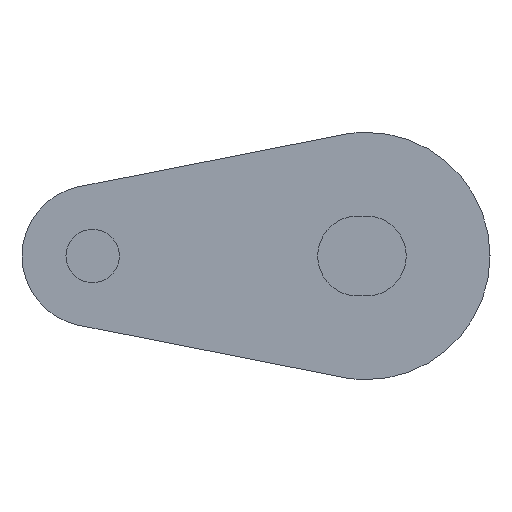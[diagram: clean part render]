
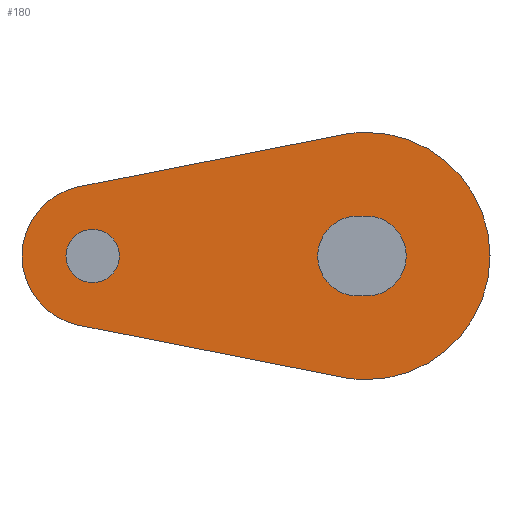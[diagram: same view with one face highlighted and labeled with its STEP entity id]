
A CAD part, left-side view. The second image highlights one B-rep face of the part: STEP entity #180.
In plain terms, the highlighted planar face has unit normal (-1, 0, 0).
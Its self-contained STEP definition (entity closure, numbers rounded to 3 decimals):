
#5 = EDGE_CURVE ( 'NONE', #591, #689, #377, .T. ) ;
#7 = EDGE_CURVE ( 'NONE', #605, #591, #329, .T. ) ;
#8 = AXIS2_PLACEMENT_3D ( 'NONE', #574, #535, #534 ) ;
#14 = AXIS2_PLACEMENT_3D ( 'NONE', #533, #532, #531 ) ;
#19 = AXIS2_PLACEMENT_3D ( 'NONE', #896, #889, #890 ) ;
#25 = AXIS2_PLACEMENT_3D ( 'NONE', #743, #737, #738 ) ;
#29 = EDGE_CURVE ( 'NONE', #571, #577, #318, .T. ) ;
#41 = EDGE_CURVE ( 'NONE', #650, #609, #302, .T. ) ;
#43 = EDGE_CURVE ( 'NONE', #688, #614, #300, .T. ) ;
#62 = EDGE_CURVE ( 'NONE', #689, #610, #285, .T. ) ;
#96 = EDGE_CURVE ( 'NONE', #610, #650, #272, .T. ) ;
#100 = AXIS2_PLACEMENT_3D ( 'NONE', #788, #798, #797 ) ;
#101 = AXIS2_PLACEMENT_3D ( 'NONE', #670, #669, #668 ) ;
#107 = EDGE_CURVE ( 'NONE', #617, #583, #243, .T. ) ;
#120 = AXIS2_PLACEMENT_3D ( 'NONE', #645, #644, #682 ) ;
#127 = EDGE_CURVE ( 'NONE', #614, #688, #208, .T. ) ;
#133 = EDGE_CURVE ( 'NONE', #609, #605, #206, .T. ) ;
#152 = EDGE_CURVE ( 'NONE', #577, #617, #1062, .T. ) ;
#154 = EDGE_CURVE ( 'NONE', #583, #571, #521, .T. ) ;
#155 = AXIS2_PLACEMENT_3D ( 'NONE', #765, #780, #782 ) ;
#162 = AXIS2_PLACEMENT_3D ( 'NONE', #722, #706, #707 ) ;
#180 = ADVANCED_FACE ( 'NONE', ( #580, #618, #615 ), #880, .T. ) ;
#206 = CIRCLE ( 'NONE', #100, 7. ) ;
#208 = CIRCLE ( 'NONE', #155, 1.51 ) ;
#243 = CIRCLE ( 'NONE', #162, 2.26 ) ;
#249 = ORIENTED_EDGE ( 'NONE', *, *, #96, .F. ) ;
#262 = VECTOR ( 'NONE', #728, 1000. ) ;
#272 = LINE ( 'NONE', #733, #262 ) ;
#280 = ORIENTED_EDGE ( 'NONE', *, *, #133, .F. ) ;
#285 = CIRCLE ( 'NONE', #25, 4. ) ;
#288 = ORIENTED_EDGE ( 'NONE', *, *, #7, .F. ) ;
#290 = ORIENTED_EDGE ( 'NONE', *, *, #5, .F. ) ;
#293 = ORIENTED_EDGE ( 'NONE', *, *, #152, .T. ) ;
#296 = ORIENTED_EDGE ( 'NONE', *, *, #107, .T. ) ;
#300 = CIRCLE ( 'NONE', #14, 1.51 ) ;
#302 = CIRCLE ( 'NONE', #8, 7. ) ;
#307 = ORIENTED_EDGE ( 'NONE', *, *, #154, .T. ) ;
#311 = ORIENTED_EDGE ( 'NONE', *, *, #41, .F. ) ;
#318 = CIRCLE ( 'NONE', #101, 2.26 ) ;
#329 = CIRCLE ( 'NONE', #120, 7. ) ;
#332 = VECTOR ( 'NONE', #649, 1000. ) ;
#335 = EDGE_LOOP ( 'NONE', ( #506, #293, #296, #307 ) ) ;
#336 = EDGE_LOOP ( 'NONE', ( #501, #502 ) ) ;
#337 = EDGE_LOOP ( 'NONE', ( #503, #290, #288, #280, #311, #249 ) ) ;
#377 = LINE ( 'NONE', #678, #332 ) ;
#501 = ORIENTED_EDGE ( 'NONE', *, *, #43, .T. ) ;
#502 = ORIENTED_EDGE ( 'NONE', *, *, #127, .T. ) ;
#503 = ORIENTED_EDGE ( 'NONE', *, *, #62, .F. ) ;
#506 = ORIENTED_EDGE ( 'NONE', *, *, #29, .T. ) ;
#521 = LINE ( 'NONE', #822, #636 ) ;
#531 = DIRECTION ( 'NONE',  ( 0., 0., -1. ) ) ;
#532 = DIRECTION ( 'NONE',  ( 1., 0., 0. ) ) ;
#533 = CARTESIAN_POINT ( 'NONE',  ( -104.5, 15.5, 0. ) ) ;
#534 = DIRECTION ( 'NONE',  ( 0., 0., -1. ) ) ;
#535 = DIRECTION ( 'NONE',  ( 1., 0., 0. ) ) ;
#571 = VERTEX_POINT ( 'NONE', #981 ) ;
#574 = CARTESIAN_POINT ( 'NONE',  ( -104.5, 0., 0. ) ) ;
#577 = VERTEX_POINT ( 'NONE', #982 ) ;
#580 = FACE_BOUND ( 'NONE', #335, .T. ) ;
#583 = VERTEX_POINT ( 'NONE', #985 ) ;
#591 = VERTEX_POINT ( 'NONE', #986 ) ;
#605 = VERTEX_POINT ( 'NONE', #993 ) ;
#609 = VERTEX_POINT ( 'NONE', #996 ) ;
#610 = VERTEX_POINT ( 'NONE', #997 ) ;
#614 = VERTEX_POINT ( 'NONE', #998 ) ;
#615 = FACE_OUTER_BOUND ( 'NONE', #337, .T. ) ;
#617 = VERTEX_POINT ( 'NONE', #1000 ) ;
#618 = FACE_BOUND ( 'NONE', #336, .T. ) ;
#636 = VECTOR ( 'NONE', #821, 1000. ) ;
#642 = VECTOR ( 'NONE', #826, 1000. ) ;
#644 = DIRECTION ( 'NONE',  ( 1., 0., 0. ) ) ;
#645 = CARTESIAN_POINT ( 'NONE',  ( -104.5, 0., 0. ) ) ;
#649 = DIRECTION ( 'NONE',  ( 0., 0.981, 0.194 ) ) ;
#650 = VERTEX_POINT ( 'NONE', #1002 ) ;
#668 = DIRECTION ( 'NONE',  ( 0., 0., -1. ) ) ;
#669 = DIRECTION ( 'NONE',  ( 1., 0., 0. ) ) ;
#670 = CARTESIAN_POINT ( 'NONE',  ( -104.5, 0.5, 0. ) ) ;
#678 = CARTESIAN_POINT ( 'NONE',  ( -104.5, 1.355, -6.868 ) ) ;
#682 = DIRECTION ( 'NONE',  ( 0., 0., -1. ) ) ;
#688 = VERTEX_POINT ( 'NONE', #966 ) ;
#689 = VERTEX_POINT ( 'NONE', #967 ) ;
#706 = DIRECTION ( 'NONE',  ( 1., 0., 0. ) ) ;
#707 = DIRECTION ( 'NONE',  ( 0., 0., -1. ) ) ;
#722 = CARTESIAN_POINT ( 'NONE',  ( -104.5, 0., 0. ) ) ;
#728 = DIRECTION ( 'NONE',  ( 0., -0.981, 0.194 ) ) ;
#733 = CARTESIAN_POINT ( 'NONE',  ( -104.5, 16.274, 3.924 ) ) ;
#737 = DIRECTION ( 'NONE',  ( 1., 0., 0. ) ) ;
#738 = DIRECTION ( 'NONE',  ( 0., 0., -1. ) ) ;
#743 = CARTESIAN_POINT ( 'NONE',  ( -104.5, 15.5, 0. ) ) ;
#765 = CARTESIAN_POINT ( 'NONE',  ( -104.5, 15.5, 0. ) ) ;
#780 = DIRECTION ( 'NONE',  ( 1., 0., 0. ) ) ;
#782 = DIRECTION ( 'NONE',  ( 0., 0., -1. ) ) ;
#788 = CARTESIAN_POINT ( 'NONE',  ( -104.5, 0., 0. ) ) ;
#797 = DIRECTION ( 'NONE',  ( 0., 0., -1. ) ) ;
#798 = DIRECTION ( 'NONE',  ( 1., 0., 0. ) ) ;
#821 = DIRECTION ( 'NONE',  ( 0., 1., 0. ) ) ;
#822 = CARTESIAN_POINT ( 'NONE',  ( -104.5, 0.5, -2.26 ) ) ;
#826 = DIRECTION ( 'NONE',  ( 0., -1., 0. ) ) ;
#827 = CARTESIAN_POINT ( 'NONE',  ( -104.5, 0.5, 2.26 ) ) ;
#880 = PLANE ( 'NONE',  #19 ) ;
#889 = DIRECTION ( 'NONE',  ( -1., 0., 0. ) ) ;
#890 = DIRECTION ( 'NONE',  ( 0., 0., -1. ) ) ;
#896 = CARTESIAN_POINT ( 'NONE',  ( -104.5, 15.5, 0. ) ) ;
#966 = CARTESIAN_POINT ( 'NONE',  ( -104.5, 15.5, -1.51 ) ) ;
#967 = CARTESIAN_POINT ( 'NONE',  ( -104.5, 16.274, -3.924 ) ) ;
#981 = CARTESIAN_POINT ( 'NONE',  ( -104.5, 0.5, -2.26 ) ) ;
#982 = CARTESIAN_POINT ( 'NONE',  ( -104.5, 0.5, 2.26 ) ) ;
#985 = CARTESIAN_POINT ( 'NONE',  ( -104.5, 0., -2.26 ) ) ;
#986 = CARTESIAN_POINT ( 'NONE',  ( -104.5, 1.355, -6.868 ) ) ;
#993 = CARTESIAN_POINT ( 'NONE',  ( -104.5, 0., -7. ) ) ;
#996 = CARTESIAN_POINT ( 'NONE',  ( -104.5, 0., 7. ) ) ;
#997 = CARTESIAN_POINT ( 'NONE',  ( -104.5, 16.274, 3.924 ) ) ;
#998 = CARTESIAN_POINT ( 'NONE',  ( -104.5, 15.5, 1.51 ) ) ;
#1000 = CARTESIAN_POINT ( 'NONE',  ( -104.5, 0., 2.26 ) ) ;
#1002 = CARTESIAN_POINT ( 'NONE',  ( -104.5, 1.355, 6.868 ) ) ;
#1062 = LINE ( 'NONE', #827, #642 ) ;
